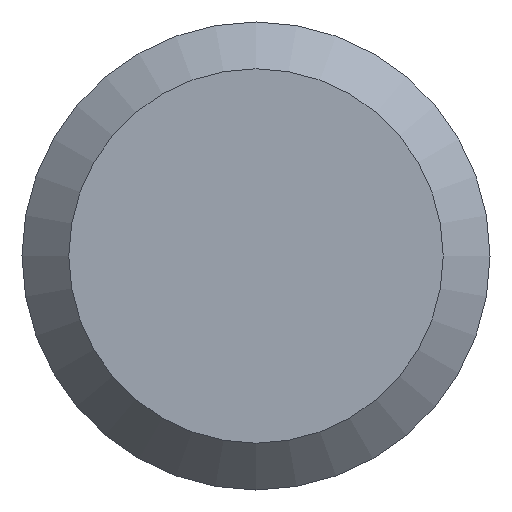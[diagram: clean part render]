
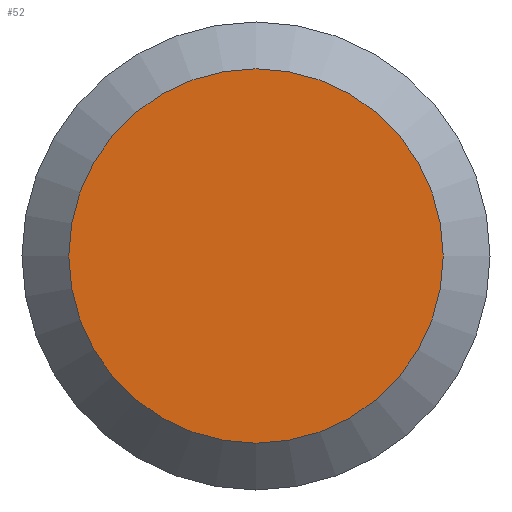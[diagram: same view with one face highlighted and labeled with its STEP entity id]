
A CAD part, left-side view. The second image highlights one B-rep face of the part: STEP entity #52.
In plain terms, the highlighted planar face has unit normal (-1, 0, 0).
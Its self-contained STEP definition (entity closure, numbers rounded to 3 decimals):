
#7 = CIRCLE ( 'NONE', #103, 8. ) ;
#26 = DIRECTION ( 'NONE',  ( -1., 0., 0. ) ) ;
#33 = DIRECTION ( 'NONE',  ( 1., 0., 0. ) ) ;
#45 = EDGE_CURVE ( 'NONE', #96, #96, #7, .T. ) ;
#52 = ADVANCED_FACE ( 'NONE', ( #99 ), #198, .F. ) ;
#81 = CARTESIAN_POINT ( 'NONE',  ( 0., 10., 0. ) ) ;
#93 = EDGE_LOOP ( 'NONE', ( #171 ) ) ;
#96 = VERTEX_POINT ( 'NONE', #135 ) ;
#99 = FACE_OUTER_BOUND ( 'NONE', #93, .T. ) ;
#103 = AXIS2_PLACEMENT_3D ( 'NONE', #193, #26, #147 ) ;
#128 = DIRECTION ( 'NONE',  ( 0., 0., -1. ) ) ;
#135 = CARTESIAN_POINT ( 'NONE',  ( 0., 0., -8. ) ) ;
#147 = DIRECTION ( 'NONE',  ( 0., 0., -1. ) ) ;
#171 = ORIENTED_EDGE ( 'NONE', *, *, #45, .T. ) ;
#172 = AXIS2_PLACEMENT_3D ( 'NONE', #81, #33, #128 ) ;
#193 = CARTESIAN_POINT ( 'NONE',  ( 0., 0., 0. ) ) ;
#198 = PLANE ( 'NONE',  #172 ) ;
